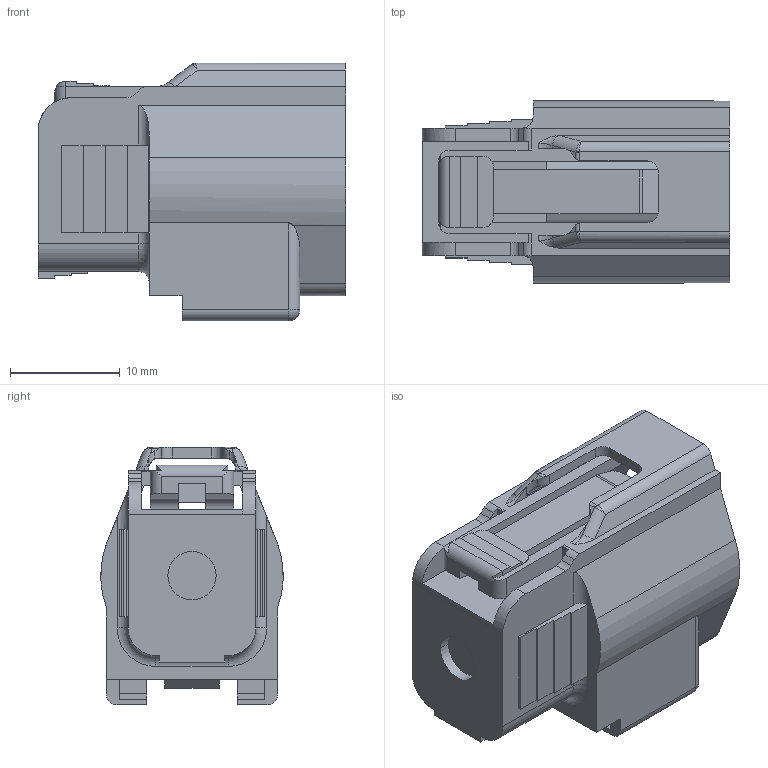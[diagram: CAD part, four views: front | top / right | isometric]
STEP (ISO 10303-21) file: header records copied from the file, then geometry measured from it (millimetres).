
FILE_DESCRIPTION(('CATIA V5 STEP Exchange','CAx-IF Rec.Pracs.--- Model Styling and Organization---1.2---2011-12-15'),'2;1');
FILE_NAME('N:\C-DAM_MyDesk\ENV\900093\6195-0066.stp','2015-06-23T07:25:38+00:00',('none'),('none'),'CATIA Version 5-6 Release 2012 SP4 HF74','CATIA V5 STEP AP214','none');
FILE_SCHEMA(('AUTOMOTIVE_DESIGN { 1 0 10303 214 1 1 1 1 }'));
Length unit declared in the file: millimetre
Products named in the file (1): 6195-0066
Bounding box: 28 x 16.57 x 23.45 mm (x, y, z)
Volume: 4705.7 mm3; surface area: 4368.2 mm2
Topology: 1 solids, 1 shells, 202 faces, 590 edges, 383 vertices
Faces by surface type: plane 137, cylinder 55, bspline 6, sphere 2, torus 2
Entity records: 6771 total; most frequent: CARTESIAN_POINT 1656, ORIENTED_EDGE 1172, DIRECTION 869, EDGE_CURVE 586, VECTOR 440, LINE 440, VERTEX_POINT 383, AXIS2_PLACEMENT_3D 262
